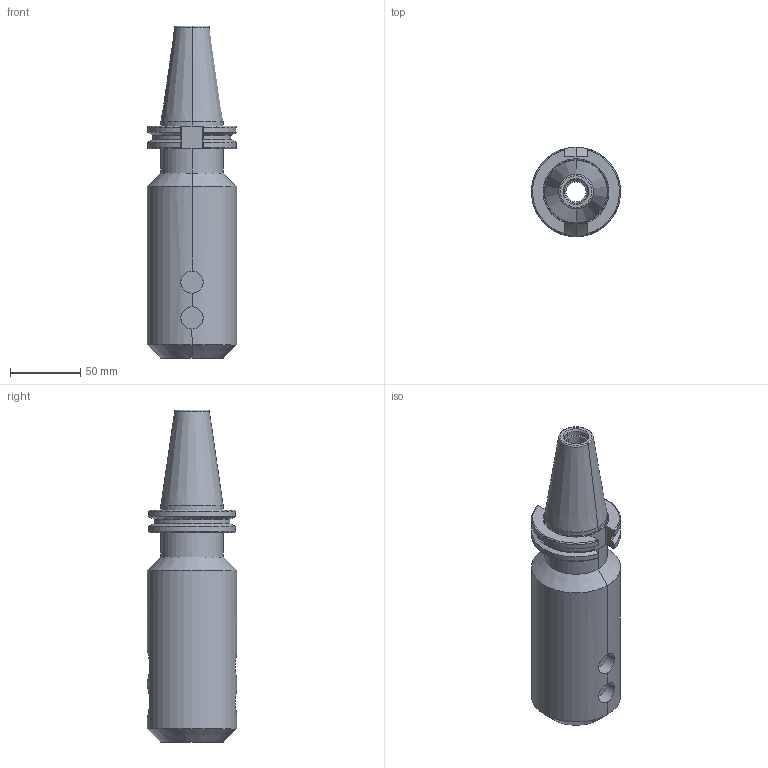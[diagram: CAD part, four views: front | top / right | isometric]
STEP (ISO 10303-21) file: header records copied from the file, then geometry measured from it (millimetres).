
FILE_DESCRIPTION (( 'STEP AP214' ), '1' );
FILE_NAME ('RC4EM1500663.STEP', '2019-02-08T14:23:01', ( '' ), ( '' ), 'SwSTEP 2.0', 'SolidWorks 2019', '' );
FILE_SCHEMA (( 'AUTOMOTIVE_DESIGN' ));
Length unit declared in the file: inch
Products named in the file (1): RC4EM1500663
Bounding box: 63.5 x 63.5 x 236.52 mm (x, y, z)
Volume: 393248.1 mm3; surface area: 65948.9 mm2
Topology: 1 solids, 1 shells, 147 faces, 374 edges, 227 vertices
Faces by surface type: plane 50, cone 43, cylinder 42, torus 12
Entity records: 5281 total; most frequent: CARTESIAN_POINT 1683, ORIENTED_EDGE 736, DIRECTION 729, EDGE_CURVE 368, AXIS2_PLACEMENT_3D 281, VERTEX_POINT 227, LINE 167, VECTOR 167
